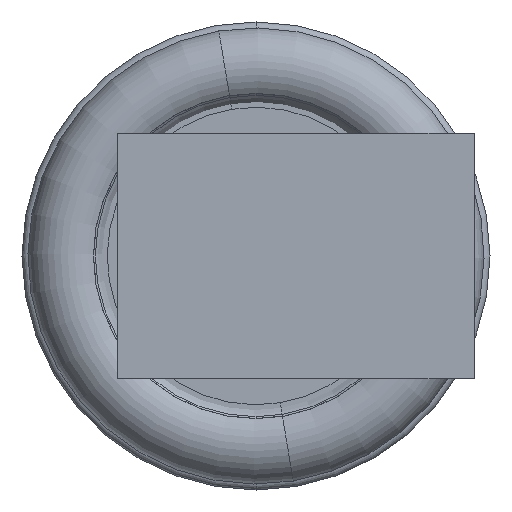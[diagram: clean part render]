
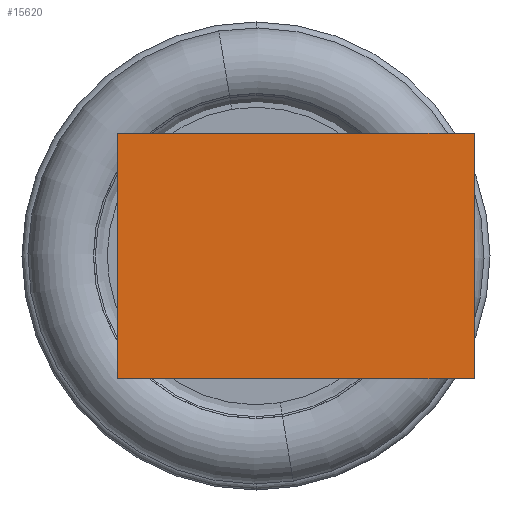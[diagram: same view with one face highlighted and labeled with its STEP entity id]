
A CAD part, left-side view. The second image highlights one B-rep face of the part: STEP entity #15620.
In plain terms, the highlighted planar face has unit normal (-1, 0, 0).
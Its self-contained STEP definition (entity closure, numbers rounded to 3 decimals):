
#476 = VERTEX_POINT ( 'NONE', #6538 ) ;
#992 = CARTESIAN_POINT ( 'NONE',  ( -124.996, 3.5, 3.1 ) ) ;
#1828 = CARTESIAN_POINT ( 'NONE',  ( -124.996, -5.5, 3.1 ) ) ;
#2146 = PLANE ( 'NONE',  #2168 ) ;
#2168 = AXIS2_PLACEMENT_3D ( 'NONE', #15513, #4162, #17520 ) ;
#2222 = CARTESIAN_POINT ( 'NONE',  ( -124.996, 3.5, -3.1 ) ) ;
#2429 = ORIENTED_EDGE ( 'NONE', *, *, #11718, .T. ) ;
#3685 = DIRECTION ( 'NONE',  ( 0., 1., 0. ) ) ;
#3842 = EDGE_CURVE ( 'NONE', #23018, #9404, #24693, .T. ) ;
#4162 = DIRECTION ( 'NONE',  ( -1., 0., 0. ) ) ;
#4588 = LINE ( 'NONE', #10770, #11728 ) ;
#5679 = FACE_OUTER_BOUND ( 'NONE', #14950, .T. ) ;
#6538 = CARTESIAN_POINT ( 'NONE',  ( -124.996, -5.5, -3.1 ) ) ;
#8903 = ORIENTED_EDGE ( 'NONE', *, *, #23192, .F. ) ;
#9404 = VERTEX_POINT ( 'NONE', #992 ) ;
#9413 = VECTOR ( 'NONE', #20491, 1000. ) ;
#9484 = CARTESIAN_POINT ( 'NONE',  ( -124.996, -12.5, 3.1 ) ) ;
#10770 = CARTESIAN_POINT ( 'NONE',  ( -124.996, -5.5, -12.5 ) ) ;
#11718 = EDGE_CURVE ( 'NONE', #9404, #24439, #21149, .T. ) ;
#11728 = VECTOR ( 'NONE', #12416, 1000. ) ;
#12416 = DIRECTION ( 'NONE',  ( 0., 0., -1. ) ) ;
#12584 = CARTESIAN_POINT ( 'NONE',  ( -124.996, -12.5, -3.1 ) ) ;
#12829 = LINE ( 'NONE', #12584, #9413 ) ;
#12940 = ORIENTED_EDGE ( 'NONE', *, *, #3842, .T. ) ;
#13980 = ORIENTED_EDGE ( 'NONE', *, *, #16770, .F. ) ;
#14950 = EDGE_LOOP ( 'NONE', ( #2429, #13980, #8903, #12940 ) ) ;
#15513 = CARTESIAN_POINT ( 'NONE',  ( -124.996, -12.5, 0. ) ) ;
#15620 = ADVANCED_FACE ( 'NONE', ( #5679 ), #2146, .T. ) ;
#16770 = EDGE_CURVE ( 'NONE', #476, #24439, #12829, .T. ) ;
#17116 = VECTOR ( 'NONE', #3685, 1000. ) ;
#17386 = VECTOR ( 'NONE', #19270, 1000. ) ;
#17520 = DIRECTION ( 'NONE',  ( 0., 0., 1. ) ) ;
#19270 = DIRECTION ( 'NONE',  ( 0., 0., -1. ) ) ;
#20491 = DIRECTION ( 'NONE',  ( 0., 1., 0. ) ) ;
#21016 = CARTESIAN_POINT ( 'NONE',  ( -124.996, 3.5, -12.5 ) ) ;
#21149 = LINE ( 'NONE', #21016, #17386 ) ;
#23018 = VERTEX_POINT ( 'NONE', #1828 ) ;
#23192 = EDGE_CURVE ( 'NONE', #23018, #476, #4588, .T. ) ;
#24439 = VERTEX_POINT ( 'NONE', #2222 ) ;
#24693 = LINE ( 'NONE', #9484, #17116 ) ;
